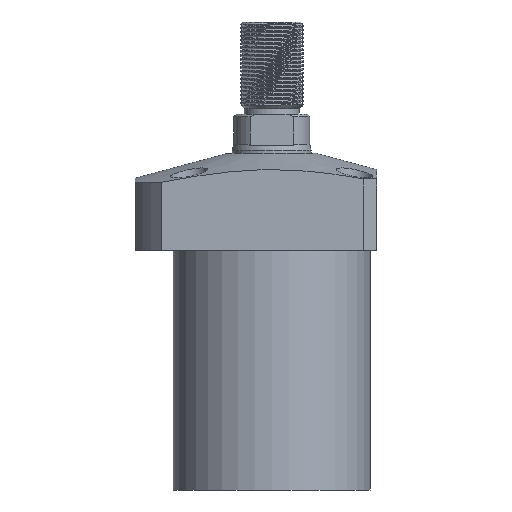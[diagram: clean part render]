
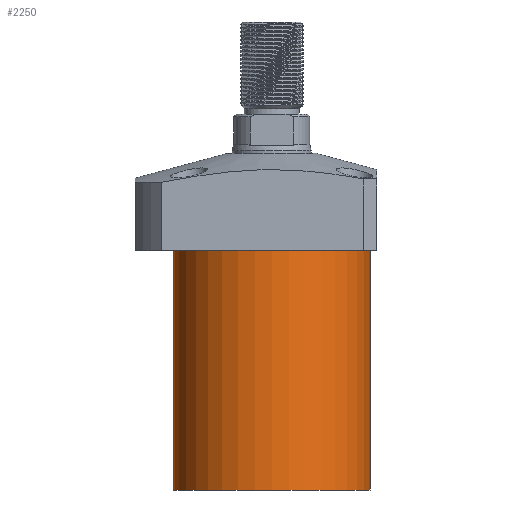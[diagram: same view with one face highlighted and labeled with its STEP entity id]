
A CAD part, front view. The second image highlights one B-rep face of the part: STEP entity #2250.
In plain terms, the highlighted cylindrical face has radius 37.5 mm (diameter 75 mm), a partial arc.
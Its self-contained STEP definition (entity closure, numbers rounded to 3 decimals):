
#68 = LINE ( 'NONE', #6530, #3583 ) ;
#213 = DIRECTION ( 'NONE',  ( 0., 0., 1. ) ) ;
#282 = DIRECTION ( 'NONE',  ( 1., 0., 0. ) ) ;
#299 = CIRCLE ( 'NONE', #5003, 37.5 ) ;
#379 = DIRECTION ( 'NONE',  ( 0., 0., 1. ) ) ;
#926 = CARTESIAN_POINT ( 'NONE',  ( 37.5, 0., -109.5 ) ) ;
#927 = DIRECTION ( 'NONE',  ( 0., 0., 1. ) ) ;
#930 = EDGE_CURVE ( 'NONE', #3718, #1902, #68, .T. ) ;
#1160 = DIRECTION ( 'NONE',  ( 0., 0., -1. ) ) ;
#1188 = CARTESIAN_POINT ( 'NONE',  ( 37.5, 0., -18.5 ) ) ;
#1854 = VECTOR ( 'NONE', #379, 1000. ) ;
#1902 = VERTEX_POINT ( 'NONE', #2509 ) ;
#1924 = AXIS2_PLACEMENT_3D ( 'NONE', #2154, #5672, #6169 ) ;
#2154 = CARTESIAN_POINT ( 'NONE',  ( 0., 0., -18.5 ) ) ;
#2250 = ADVANCED_FACE ( 'NONE', ( #4214 ), #4068, .T. ) ;
#2509 = CARTESIAN_POINT ( 'NONE',  ( -37.5, 0., -18.5 ) ) ;
#2631 = VERTEX_POINT ( 'NONE', #926 ) ;
#2693 = DIRECTION ( 'NONE',  ( -1., 0., 0. ) ) ;
#3101 = AXIS2_PLACEMENT_3D ( 'NONE', #5852, #213, #282 ) ;
#3583 = VECTOR ( 'NONE', #927, 1000. ) ;
#3666 = EDGE_CURVE ( 'NONE', #5265, #1902, #5691, .T. ) ;
#3718 = VERTEX_POINT ( 'NONE', #5916 ) ;
#4068 = CYLINDRICAL_SURFACE ( 'NONE', #3101, 37.5 ) ;
#4214 = FACE_OUTER_BOUND ( 'NONE', #6133, .T. ) ;
#4263 = EDGE_CURVE ( 'NONE', #2631, #3718, #299, .T. ) ;
#4974 = ORIENTED_EDGE ( 'NONE', *, *, #5452, .T. ) ;
#5003 = AXIS2_PLACEMENT_3D ( 'NONE', #5728, #1160, #2693 ) ;
#5038 = ORIENTED_EDGE ( 'NONE', *, *, #4263, .F. ) ;
#5265 = VERTEX_POINT ( 'NONE', #1188 ) ;
#5452 = EDGE_CURVE ( 'NONE', #2631, #5265, #6066, .T. ) ;
#5663 = ORIENTED_EDGE ( 'NONE', *, *, #3666, .T. ) ;
#5672 = DIRECTION ( 'NONE',  ( 0., 0., -1. ) ) ;
#5691 = CIRCLE ( 'NONE', #1924, 37.5 ) ;
#5728 = CARTESIAN_POINT ( 'NONE',  ( 0., 0., -109.5 ) ) ;
#5852 = CARTESIAN_POINT ( 'NONE',  ( 0., 0., -109.5 ) ) ;
#5916 = CARTESIAN_POINT ( 'NONE',  ( -37.5, 0., -109.5 ) ) ;
#6066 = LINE ( 'NONE', #6369, #1854 ) ;
#6133 = EDGE_LOOP ( 'NONE', ( #6210, #5038, #4974, #5663 ) ) ;
#6169 = DIRECTION ( 'NONE',  ( 1., 0., 0. ) ) ;
#6210 = ORIENTED_EDGE ( 'NONE', *, *, #930, .F. ) ;
#6369 = CARTESIAN_POINT ( 'NONE',  ( 37.5, 0., -109.5 ) ) ;
#6530 = CARTESIAN_POINT ( 'NONE',  ( -37.5, 0., -109.5 ) ) ;
